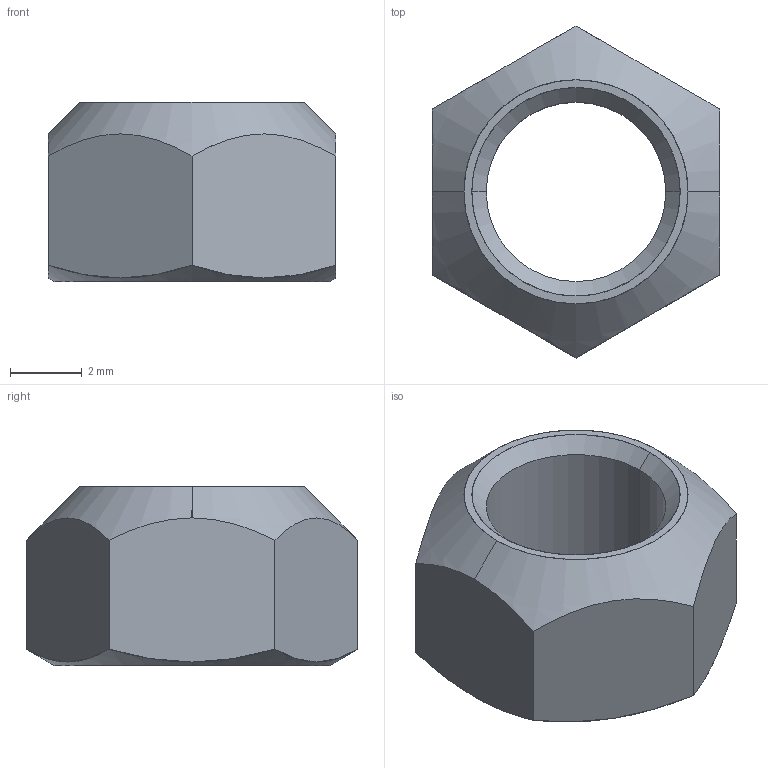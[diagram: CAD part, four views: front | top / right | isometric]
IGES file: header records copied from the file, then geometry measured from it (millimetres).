
Start section: SolidWorks IGES file using analytic representation for surfaces
Global section: file name: C:\Users\liam_\OneDrive\Documents\WORK\Work for WixRoyd\Job Files\J-00021 - Matt Davis CAD Checking\04. CAD Drawings\automotion20190729\P0308.ZP_v2\P0308.ZP_v2_20190913_IGES\P0308.140-ZP.igs; native system: SolidWorks 2017; preprocessor: SolidWorks 2017; author: liam_; date: 190913.214207; units: millimetre
Bounding box: 8 x 9.24 x 5 mm (x, y, z)
Surface area: 256.9 mm2 (no closed solid volume)
Topology: 0 solids, 0 shells, 18 faces, 308 edges, 308 vertices
Faces by surface type: revolution 10, bspline 8
